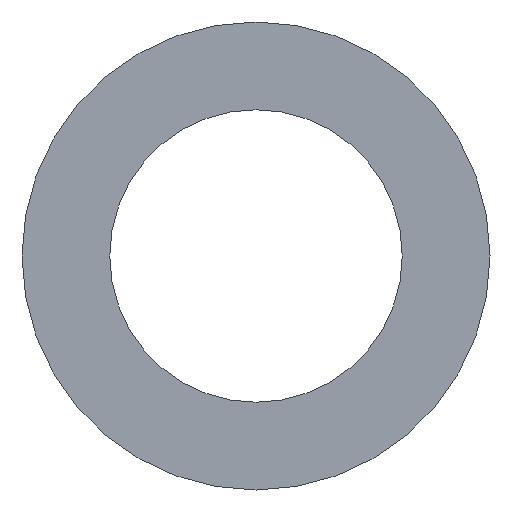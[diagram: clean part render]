
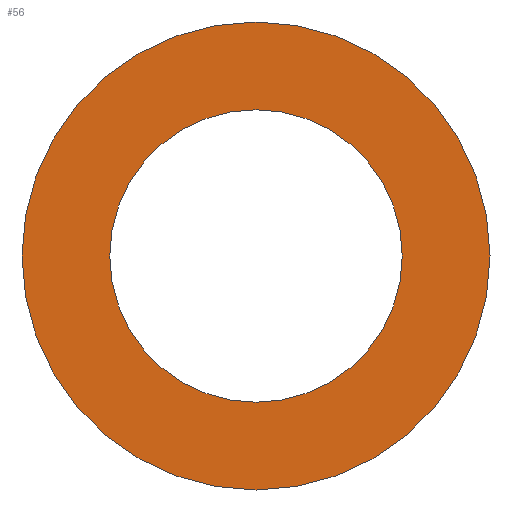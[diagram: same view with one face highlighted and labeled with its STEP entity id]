
A CAD part, front view. The second image highlights one B-rep face of the part: STEP entity #56.
In plain terms, the highlighted planar face has unit normal (0, -1, 0).
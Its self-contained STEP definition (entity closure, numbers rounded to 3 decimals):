
#3 = CIRCLE ( 'NONE', #41, 20. ) ;
#5 = EDGE_CURVE ( 'NONE', #87, #87, #114, .T. ) ;
#7 = DIRECTION ( 'NONE',  ( 0., 0., 1. ) ) ;
#9 = DIRECTION ( 'NONE',  ( 0., 1., 0. ) ) ;
#10 = EDGE_LOOP ( 'NONE', ( #116 ) ) ;
#12 = CARTESIAN_POINT ( 'NONE',  ( 0., 0., 20. ) ) ;
#20 = ORIENTED_EDGE ( 'NONE', *, *, #34, .T. ) ;
#21 = EDGE_LOOP ( 'NONE', ( #20 ) ) ;
#23 = VERTEX_POINT ( 'NONE', #12 ) ;
#27 = DIRECTION ( 'NONE',  ( 0., 0., 1. ) ) ;
#34 = EDGE_CURVE ( 'NONE', #23, #23, #3, .T. ) ;
#36 = DIRECTION ( 'NONE',  ( 0., 0., 1. ) ) ;
#41 = AXIS2_PLACEMENT_3D ( 'NONE', #46, #51, #7 ) ;
#44 = FACE_OUTER_BOUND ( 'NONE', #10, .T. ) ;
#46 = CARTESIAN_POINT ( 'NONE',  ( 0., 0., 0. ) ) ;
#51 = DIRECTION ( 'NONE',  ( 0., 1., 0. ) ) ;
#52 = DIRECTION ( 'NONE',  ( 0., 1., 0. ) ) ;
#56 = ADVANCED_FACE ( 'NONE', ( #44, #79 ), #115, .F. ) ;
#72 = CARTESIAN_POINT ( 'NONE',  ( 0., 0., 0. ) ) ;
#73 = AXIS2_PLACEMENT_3D ( 'NONE', #72, #9, #27 ) ;
#79 = FACE_BOUND ( 'NONE', #21, .T. ) ;
#87 = VERTEX_POINT ( 'NONE', #110 ) ;
#88 = AXIS2_PLACEMENT_3D ( 'NONE', #113, #52, #36 ) ;
#110 = CARTESIAN_POINT ( 'NONE',  ( 0., 0., 32. ) ) ;
#113 = CARTESIAN_POINT ( 'NONE',  ( 0., 0., 0. ) ) ;
#114 = CIRCLE ( 'NONE', #88, 32. ) ;
#115 = PLANE ( 'NONE',  #73 ) ;
#116 = ORIENTED_EDGE ( 'NONE', *, *, #5, .F. ) ;
